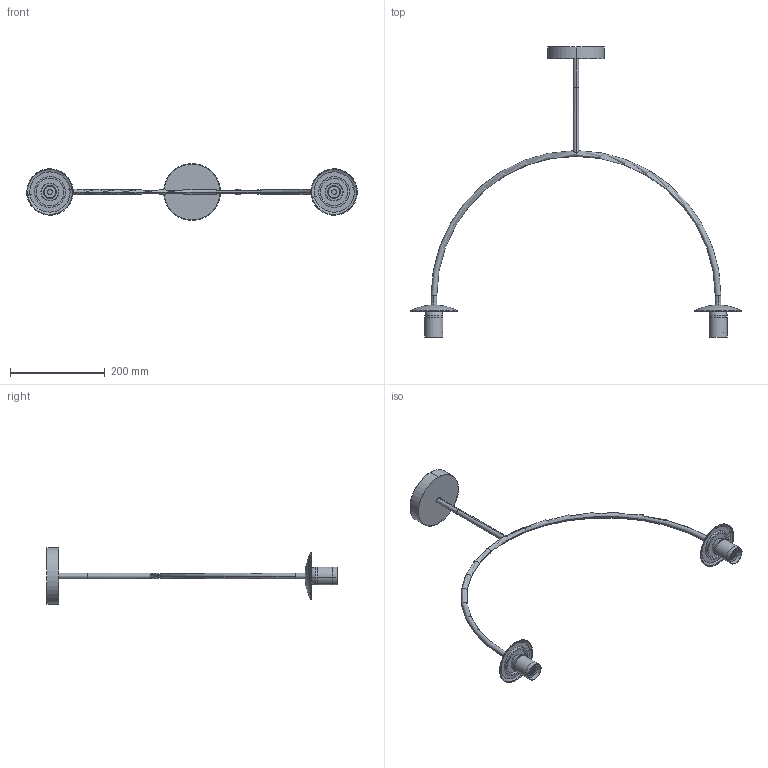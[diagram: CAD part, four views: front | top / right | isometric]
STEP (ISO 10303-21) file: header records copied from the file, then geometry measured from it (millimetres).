
FILE_DESCRIPTION (( 'STEP AP203' ), '1' );
FILE_NAME ('C3946380 - PARMA COLGANTE 2 LUCES.STEP', '2026-02-13T12:38:38', ( '' ), ( '' ), 'SwSTEP 2.0', 'SolidWorks 2025', '' );
FILE_SCHEMA (( 'CONFIG_CONTROL_DESIGN' ));
Length unit declared in the file: millimetre
Products named in the file (6): Portalamparas E27 Parma; BaseParmaConCasquillo; C3946380 - PARMA COLGANTE 2 LUCES; ESTRUCTURA PARMA COLGANTE 2 LUCES_Estructura PARMA Colgante 2 luces; BolacConBase; Base Parma Shifa
Assembly tree (6 placements, depth 4):
  C3946380 - PARMA COLGANTE 2 LUCES
    ESTRUCTURA PARMA COLGANTE 2 LUCES_Estructura PARMA Colgante 2 luces
    BolacConBase  x2
      BaseParmaConCasquillo
        Base Parma Shifa
        Portalamparas E27 Parma
Bounding box: 697.83 x 612.45 x 120 mm (x, y, z)
Volume: 290227.1 mm3; surface area: 148927 mm2
Topology: 7 solids, 7 shells, 142 faces, 311 edges, 194 vertices
Faces by surface type: cylinder 82, plane 30, torus 18, bspline 8, cone 4
Entity records: 4194 total; most frequent: CARTESIAN_POINT 1763, DIRECTION 411, ORIENTED_EDGE 356, AXIS2_PLACEMENT_3D 181, EDGE_CURVE 178, VERTEX_POINT 112, CIRCLE 92, EDGE_LOOP 92
